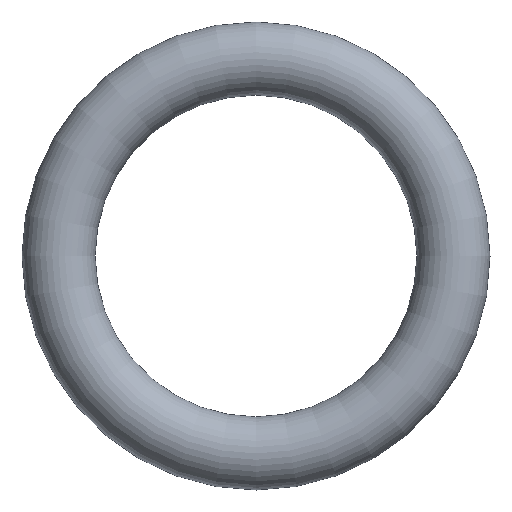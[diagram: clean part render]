
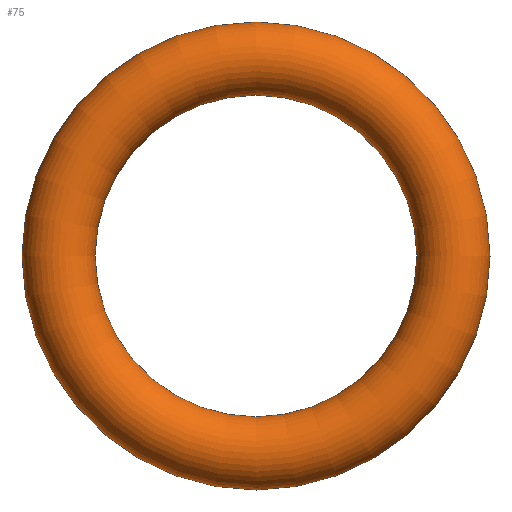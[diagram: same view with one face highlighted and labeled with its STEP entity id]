
A CAD part, front view. The second image highlights one B-rep face of the part: STEP entity #75.
In plain terms, the highlighted toroidal (fillet/blend) face has major radius 6.75 mm and minor radius 1.25 mm.
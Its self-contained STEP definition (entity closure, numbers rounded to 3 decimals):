
#75 = ADVANCED_FACE( '', ( #77 ), #78, .T. );
#77 = FACE_BOUND( '', #79, .T. );
#78 = TOROIDAL_SURFACE( '', #80, 6.75, 1.25 );
#79 = VERTEX_LOOP( '', #81 );
#80 = AXIS2_PLACEMENT_3D( '', #82, #83, #84 );
#81 = VERTEX_POINT( '', #85 );
#82 = CARTESIAN_POINT( '', ( 0., 0., 0. ) );
#83 = DIRECTION( '', ( 0., -1., 0. ) );
#84 = DIRECTION( '', ( 0., 0., -1. ) );
#85 = CARTESIAN_POINT( '', ( 0., 0., -8. ) );
